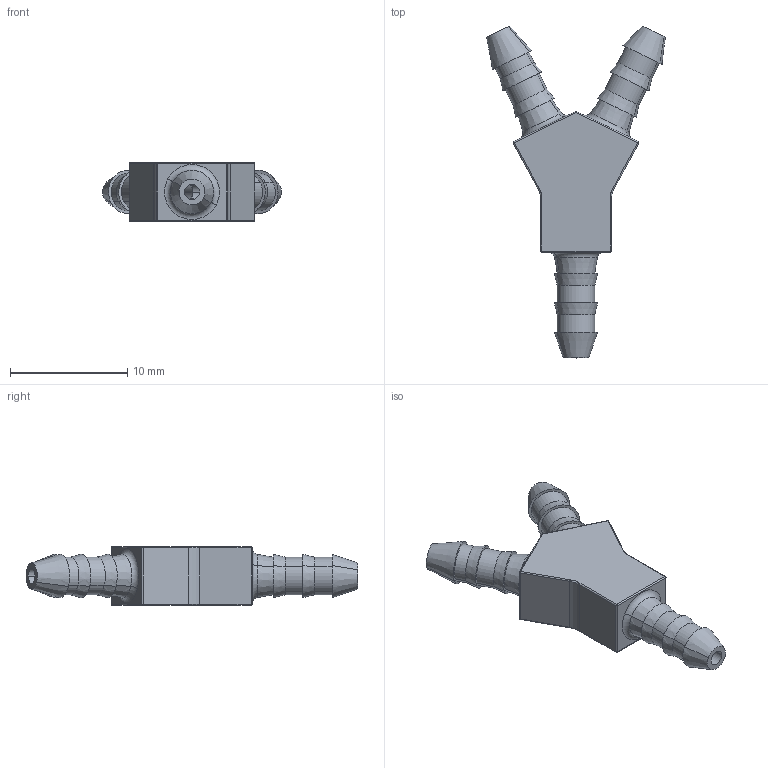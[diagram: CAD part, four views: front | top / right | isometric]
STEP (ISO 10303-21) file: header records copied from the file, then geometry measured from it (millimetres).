
FILE_DESCRIPTION(('CATIA V5 STEP Exchange'),'2;1');
FILE_NAME('C:\Users\Administrator\Desktop\孙工\三通接头-内径1.3.stp','2021-05-28T09:26:32+00:00',('none'),('none'),'CATIA Version 5 Release 20 GA (IN-10)','CATIA V5 STEP AP214','none');
FILE_SCHEMA(('AUTOMOTIVE_DESIGN { 1 0 10303 214 1 1 1 1 }'));
Length unit declared in the file: millimetre
Products named in the file (1): 3tong jietou
Bounding box: 15.22 x 28.27 x 5 mm (x, y, z)
Volume: 574.7 mm3; surface area: 799.7 mm2
Topology: 1 solids, 1 shells, 108 faces, 233 edges, 129 vertices
Faces by surface type: cylinder 39, plane 25, cone 24, sphere 10, torus 6, bspline 4
Entity records: 3348 total; most frequent: CARTESIAN_POINT 1236, ORIENTED_EDGE 448, DIRECTION 350, EDGE_CURVE 224, AXIS2_PLACEMENT_3D 188, VERTEX_POINT 129, EDGE_LOOP 123, ADVANCED_FACE 108
